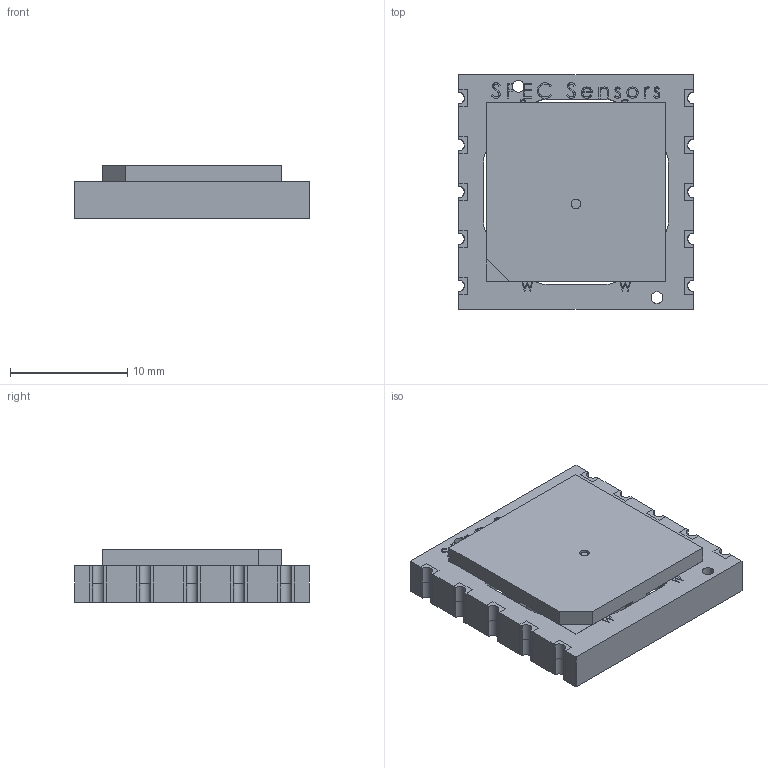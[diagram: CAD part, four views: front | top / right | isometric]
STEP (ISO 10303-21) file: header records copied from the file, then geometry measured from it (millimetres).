
FILE_DESCRIPTION (( 'STEP AP214' ), '1' );
FILE_NAME ('110-113 STEP.STEP', '2023-06-20T19:52:05', ( '' ), ( '' ), 'SwSTEP 2.0', 'SolidWorks 2017', '' );
FILE_SCHEMA (( 'AUTOMOTIVE_DESIGN' ));
Length unit declared in the file: millimetre
Products named in the file (4): Zebra Barcode; 981-013; 110-113 STEP; 100-102 STEP
Assembly tree (3 placements, depth 2):
  110-113 STEP
    100-102 STEP
    Zebra Barcode
    981-013
Bounding box: 20.01 x 20 x 4.49 mm (x, y, z)
Volume: 1300.2 mm3; surface area: 2201.8 mm2
Topology: 32 solids, 32 shells, 579 faces, 1546 edges, 1036 vertices
Faces by surface type: plane 360, bspline 123, cylinder 96
Full cylindrical faces by diameter (mm): 0.75 x24, 0.8 x1, 1 x10, 12 x1
Entity records: 27425 total; most frequent: CARTESIAN_POINT 9278, ORIENTED_EDGE 2988, DIRECTION 2364, EDGE_CURVE 1494, VECTOR 1056, LINE 1056, VERTEX_POINT 1020, EDGE_LOOP 696
